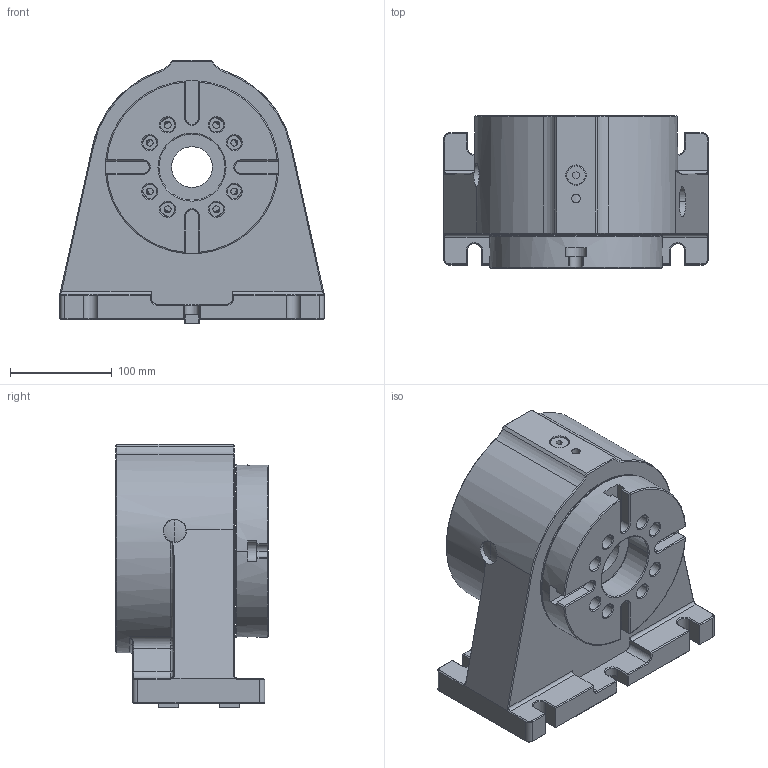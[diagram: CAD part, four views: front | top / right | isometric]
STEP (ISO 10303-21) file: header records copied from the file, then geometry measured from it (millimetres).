
FILE_DESCRIPTION (( 'STEP AP203' ), '1' );
FILE_NAME ('WDS-RS150 喜渡俋夤芞 REV.01.STEP', '2021-03-01T02:49:08', ( '' ), ( '' ), 'SwSTEP 2.0', 'SolidWorks 2018', '' );
FILE_SCHEMA (( 'CONFIG_CONTROL_DESIGN' ));
Length unit declared in the file: centimetre
Products named in the file (1): WDS-RS150 喜渡俋夤芞 REV.01
Bounding box: 260 x 149.85 x 259 mm (x, y, z)
Surface area: 332712.3 mm2 (no closed solid volume)
Topology: 0 solids, 15 shells, 541 faces, 1432 edges, 884 vertices
Faces by surface type: plane 233, cylinder 162, cone 97, torus 32, bspline 17
Entity records: 18288 total; most frequent: CARTESIAN_POINT 4772, DIRECTION 2949, ORIENTED_EDGE 2596, EDGE_CURVE 1419, AXIS2_PLACEMENT_3D 1101, VERTEX_POINT 884, VECTOR 747, LINE 747
